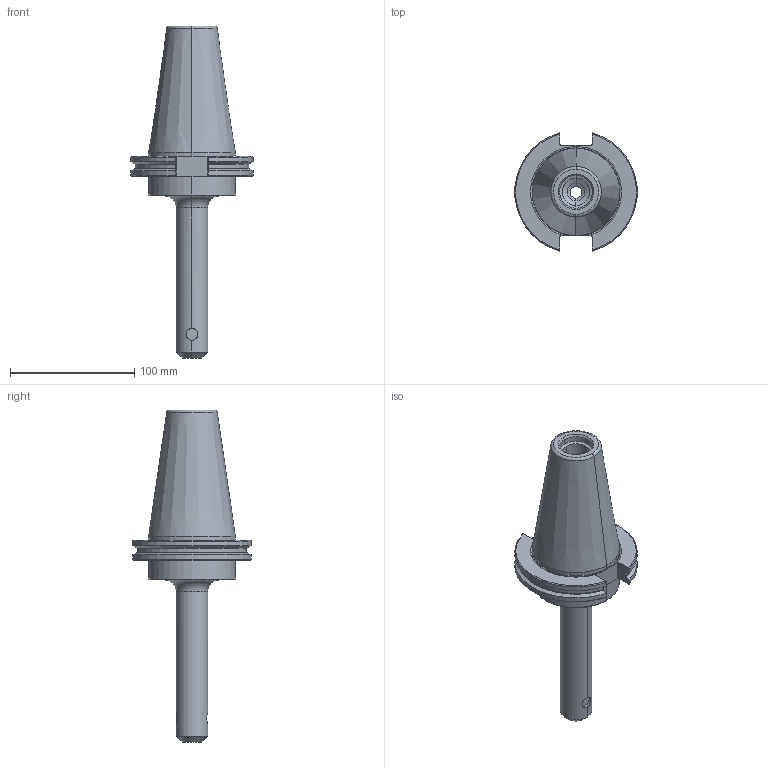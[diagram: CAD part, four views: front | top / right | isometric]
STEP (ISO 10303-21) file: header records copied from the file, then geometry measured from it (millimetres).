
FILE_DESCRIPTION (( 'STEP AP214' ), '1' );
FILE_NAME ('RC5EM03756500.STEP', '2019-02-08T14:41:24', ( '' ), ( '' ), 'SwSTEP 2.0', 'SolidWorks 2019', '' );
FILE_SCHEMA (( 'AUTOMOTIVE_DESIGN' ));
Length unit declared in the file: inch
Products named in the file (1): RC5EM03756500
Bounding box: 98.05 x 94.95 x 266.7 mm (x, y, z)
Volume: 427682 mm3; surface area: 63464.5 mm2
Topology: 1 solids, 1 shells, 121 faces, 309 edges, 190 vertices
Faces by surface type: cylinder 38, plane 36, cone 31, torus 16
Entity records: 4084 total; most frequent: CARTESIAN_POINT 1085, DIRECTION 622, ORIENTED_EDGE 610, EDGE_CURVE 305, AXIS2_PLACEMENT_3D 247, VERTEX_POINT 190, VECTOR 128, LINE 128
